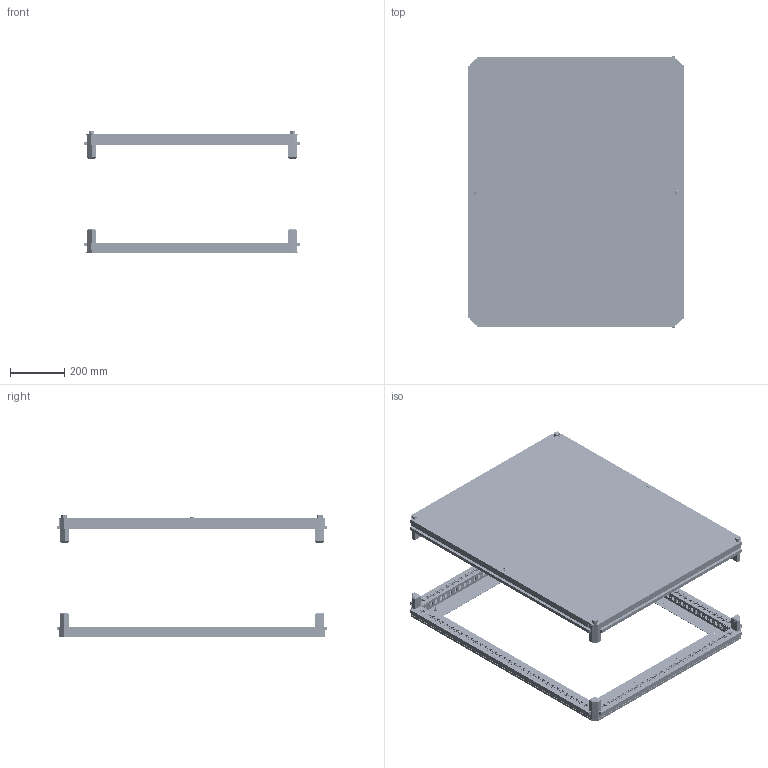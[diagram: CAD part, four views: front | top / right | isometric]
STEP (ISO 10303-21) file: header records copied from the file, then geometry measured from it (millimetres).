
FILE_DESCRIPTION (( 'STEP AP214' ), '1' );
FILE_NAME ('FO-00-KOF-100-080 Êðûøà è îñíîâàíèå (ïîä ôëàíåö) 1000õ800 ìì.STEP', '2025-08-25T12:27:17', ( '' ), ( '' ), 'SwSTEP 2.0', 'SolidWorks 2023', '' );
FILE_SCHEMA (( 'AUTOMOTIVE_DESIGN' ));
Products named in the file (3): FO-00-KOF-100-080 Крыша и основание (под фланец) 1000х800 мм; Крыша под фланец  1000х800; Основание под фланец 1000х800
Assembly tree (2 placements, depth 2):
  FO-00-KOF-100-080 Крыша и основание (под фланец) 1000х800 мм
    Крыша под фланец  1000х800
    Основание под фланец 1000х800
Bounding box: 800.1 x 1000.1 x 446.9 mm (x, y, z)
Volume: 4582840.3 mm3; surface area: 4110034.7 mm2
Topology: 6 solids, 30 shells, 5961 faces, 16761 edges, 11105 vertices
Faces by surface type: plane 3611, cylinder 1876, cone 274, bspline 192, torus 4, sphere 4
Entity records: 200703 total; most frequent: CARTESIAN_POINT 41251, ORIENTED_EDGE 33514, DIRECTION 31674, EDGE_CURVE 16757, VECTOR 11466, LINE 11466, VERTEX_POINT 11105, AXIS2_PLACEMENT_3D 10104
